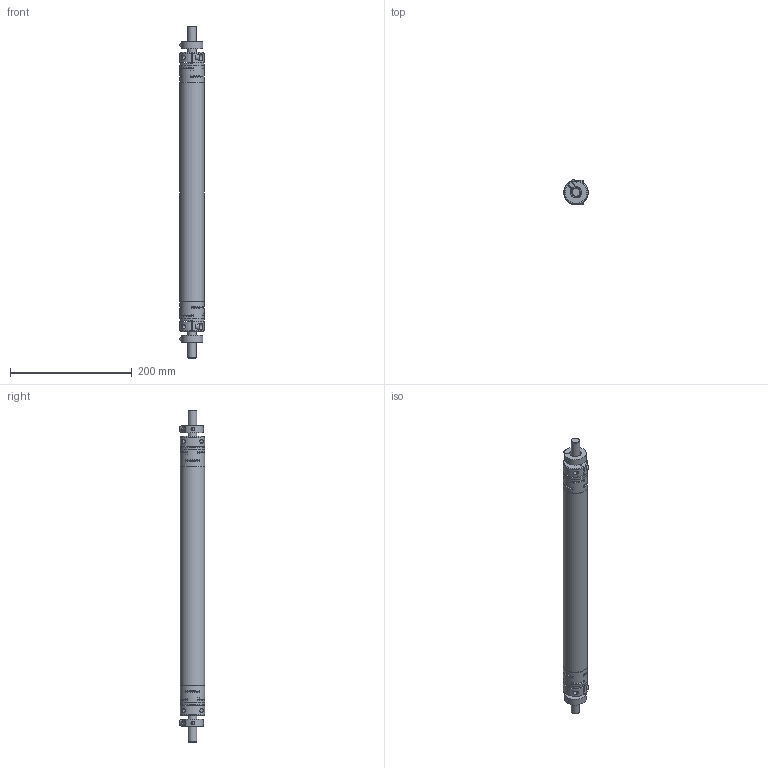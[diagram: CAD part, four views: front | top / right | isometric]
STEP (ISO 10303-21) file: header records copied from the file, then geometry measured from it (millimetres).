
FILE_DESCRIPTION(/* description */ ('Connecting shaft HLR080 - double axis distance = 550mm'),/* implementation_level */ '2;1');
FILE_NAME(/* name */ 'D:\InventorWorkspace2017\CAD\Projekte_EDEM\HLR\Zubehörteile\0242910-0550.stp',/* time_stamp */ '2019-02-13T11:22:26+01:00',/* author */ ('544672'),/* organization */ (''),/* preprocessor_version */ 'ST-DEVELOPER v16.5',/* originating_system */ 'Autodesk Inventor 2017',/* authorisation */ '');
FILE_SCHEMA (('AUTOMOTIVE_DESIGN { 1 0 10303 214 3 1 1 }'));
Length unit declared in the file: millimetre
Products named in the file (8): 0242.910-0550; 0241910-XXXX; ROTEX GS19 ZR3_Rohr_1; ROTEX GS19 ZR3_Klemmnabe D14; 0242007-02; 0241914; 0241012; 130-302345
Assembly tree (11 placements, depth 3):
  0242.910-0550
    0241910-XXXX
      ROTEX GS19 ZR3_Klemmnabe D14  x2
      ROTEX GS19 ZR3_Rohr_1
    0242007-02
      0241914  x2
      0241012  x2
      130-302345  x2
Bounding box: 40 x 41.78 x 545 mm (x, y, z)
Volume: 251819.1 mm3; surface area: 135708.7 mm2
Topology: 9 solids, 9 shells, 424 faces, 1188 edges, 790 vertices
Faces by surface type: cylinder 176, plane 154, cone 90, torus 4
Full cylindrical faces by diameter (mm): 3 x12, 4.917 x2, 6 x6, 6.4 x2, 6.6 x8, 10 x6, 14 x4, 18 x4, 22 x2, 34 x1, 39.4 x2, 40 x3
Entity records: 7305 total; most frequent: CARTESIAN_POINT 1526, DIRECTION 1269, ORIENTED_EDGE 1082, EDGE_CURVE 541, AXIS2_PLACEMENT_3D 540, VERTEX_POINT 383, EDGE_LOOP 294, CIRCLE 291
